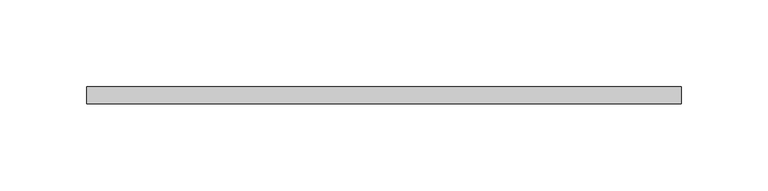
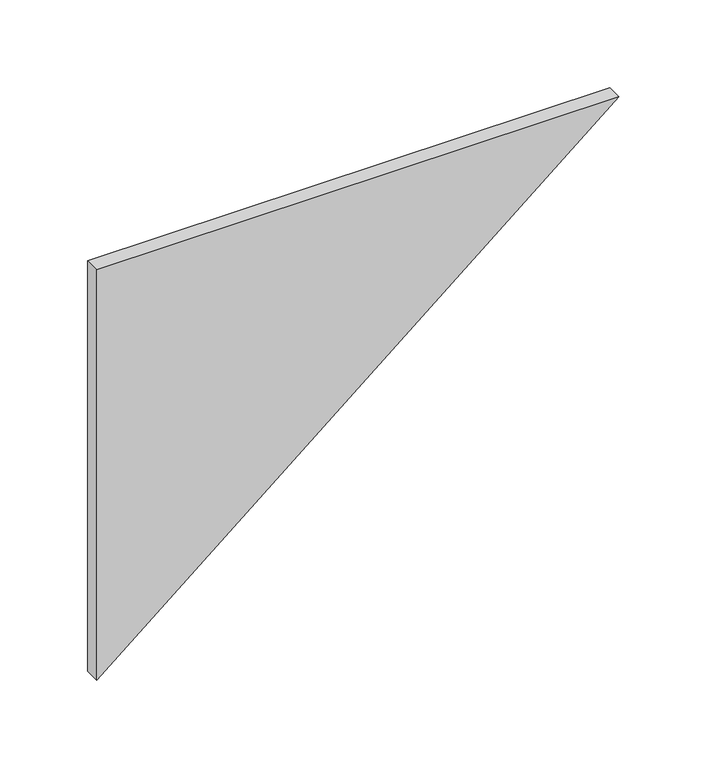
"""IFC4 building model written with IfcOpenShell, lengths in millimetres: plate geometry, 系統嵌板 : 玻璃 1.0cm."""

from ifc_helpers import new_model, si_unit, frame, origin, place, context, project, spatial, polyline, outline, extrude, source, transform, mapped, element, save


def plate_47102507(model_context):
    return source(origin(), model_context, "Body", "SweptSolid", [
        extrude(outline(polyline([(284.992014, -171.6155721), (0.0, -171.6155721), (284.992014, 171.6155721), (284.992014, -171.6155721)])), frame((0.0, -5.0, 0.0), z_axis=(0.0, 1.0, 0.0), x_axis=(0.0, 0.0, 1.0)), (0.0, 0.0, 1.0), 10.0),
    ])


if __name__ == "__main__":
    model = new_model("IFC4")
    model_context = context("Model", 3, world=origin())
    ifc_project = project(units=[si_unit("LENGTHUNIT", "METRE", prefix="MILLI")], contexts=[model_context])
    site = spatial("IfcSite", under=ifc_project)
    building = spatial("IfcBuilding", under=site)
    placement = place(None, origin())
    plate_shape = plate_47102507(model_context)
    element("IfcPlate", 1, ObjectType="系統嵌板 : 玻璃 1.0cm", at=placement, inside=building, context=model_context, shape_type="MappedRepresentation", body=[
        mapped(plate_shape, transform((0.0, 0.0, 0.0), x_axis=(1.0, 0.0, 0.0), y_axis=(0.0, 1.0, 0.0), z_axis=(0.0, 0.0, 1.0))),
    ])
    save(model, "model.ifc")
